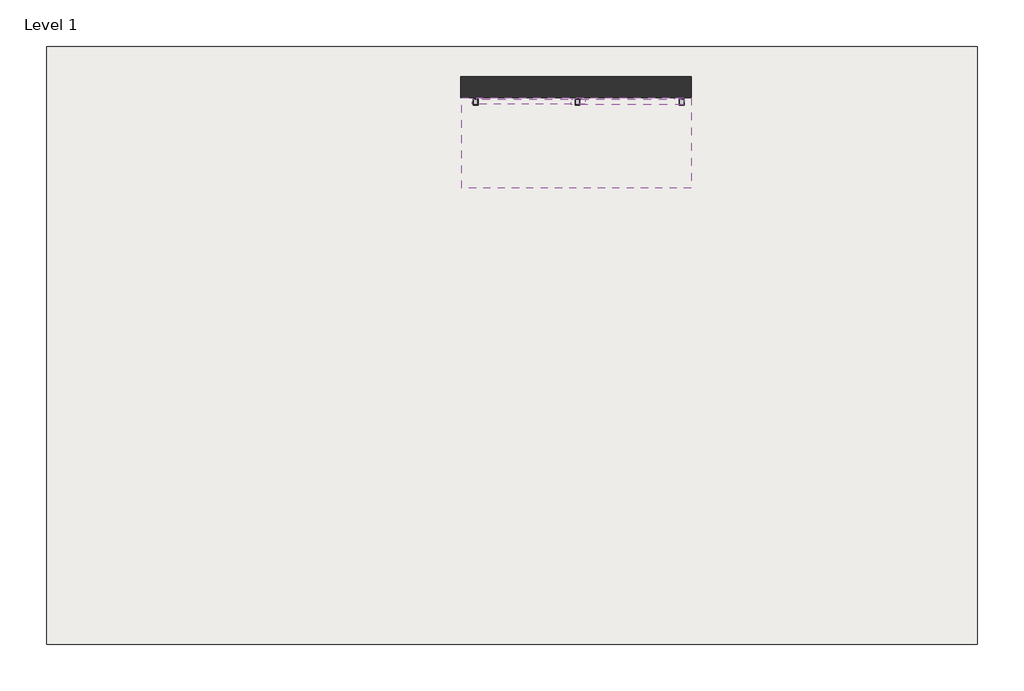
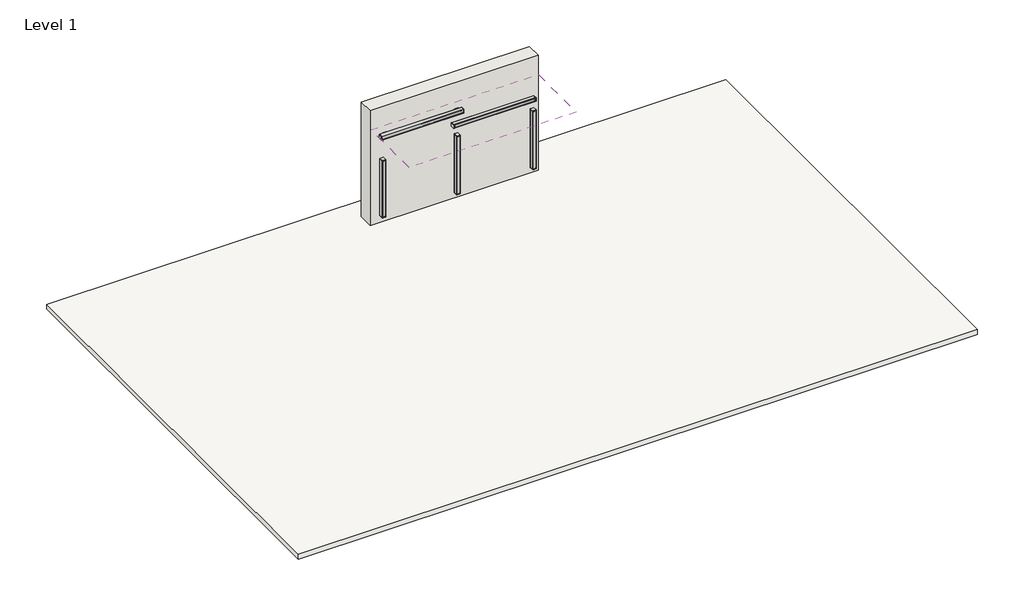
# One storey: 5 light fixtures, 1 covering, 1 slab, 1 wall.
"""IFC4 building model written with IfcOpenShell, lengths in millimetres."""

from ifc_helpers import new_model, si_unit, frame, origin, origin_with_axes, place, context, project, spatial, polyline, outline, extrude, transform, mapped, element, save
from components import lighting_horizontal_mullion_down_axis_extend_4_82a0bb62, lighting_horizontal_mullion_out_axis_extend_4_b6a250f9, lighting_horizontal_mullion_out_axis_extend_4_3f4398bc, lighting_horizontal_mullion_out_axis_extend_4_89aab889

model = new_model("IFC4")

# Units and contexts
model_context = context("Model", 3, world=origin())
ifc_project = project(units=[si_unit("LENGTHUNIT", "METRE", prefix="MILLI")], contexts=[model_context])

# Site, building, storey
site = spatial("IfcSite", under=ifc_project)
building = spatial("IfcBuilding", under=site)
storey = spatial("IfcBuildingStorey", under=building, Name="Level 1", Elevation=0.0)

# Covering
placement = place(None, origin())
element("IfcCovering", 1, ObjectType="Plain", at=placement, inside=storey, context=model_context, shape_type="SweptSolid", body=[
    extrude(outline(polyline([(-3780.5571266, 5992.4697047), (1248.6428734, 5992.4697047), (1248.6428734, 4011.2697047), (-3780.5571266, 4011.2697047), (-3780.5571266, 5992.4697047)])), frame((0.0, 0.0, 3048.0), z_axis=(0.0, 0.0, 1.0), x_axis=(1.0, 0.0, 0.0)), (0.0, 0.0, 1.0), 12.7),
])

# Light fixtures
lighting_horizontal_mullion_down_axis_extend_4_shape = lighting_horizontal_mullion_down_axis_extend_4_82a0bb62(model_context)
element("IfcLightFixture", 2, ObjectType="Lighting -Horizontal Mullion Down-Axis-Extend_4 : EX4WD-900-80-35-SO-4", at=placement, inside=storey, context=model_context, shape_type="MappedRepresentation", body=[
    mapped(lighting_horizontal_mullion_down_axis_extend_4_shape, transform((-2307.3571266, 5992.4697047, 2711.5869413), x_axis=(1.0, 0.0, 0.0), y_axis=(0.0, 0.0, 1.0), z_axis=(0.0, -1.0, 0.0))),
])
lighting_horizontal_mullion_out_axis_extend_4_shape = lighting_horizontal_mullion_out_axis_extend_4_b6a250f9(model_context)
element("IfcLightFixture", 3, ObjectType="Lighting -Horizontal Mullion Out-Axis-Extend_4 : EX4WD-900-80-35-SO-4", at=placement, inside=storey, context=model_context, shape_type="MappedRepresentation", body=[
    mapped(lighting_horizontal_mullion_out_axis_extend_4_shape, transform((-3518.2221166, 5992.4697047, 833.026171), x_axis=(0.0, 0.0, -1.0), y_axis=(1.0, 0.0, 0.0), z_axis=(0.0, -1.0, 0.0))),
])
lighting_horizontal_mullion_out_axis_extend_4_2_shape = lighting_horizontal_mullion_out_axis_extend_4_3f4398bc(model_context)
element("IfcLightFixture", 4, ObjectType="Lighting -Horizontal Mullion Out-Axis-Extend_4 : EX4WD-900-80-35-SO-4", at=placement, inside=storey, context=model_context, shape_type="MappedRepresentation", body=[
    mapped(lighting_horizontal_mullion_out_axis_extend_4_2_shape, transform((1002.9778834, 5992.4697047, 833.026171), x_axis=(0.0, 0.0, -1.0), y_axis=(1.0, 0.0, 0.0), z_axis=(0.0, -1.0, 0.0))),
])
element("IfcLightFixture", 5, ObjectType="Lighting -Horizontal Mullion Out-Axis-Extend_4 : EX4WD-900-80-35-SO-4", at=placement, inside=storey, context=model_context, shape_type="MappedRepresentation", body=[
    mapped(lighting_horizontal_mullion_out_axis_extend_4_2_shape, transform((-1283.0221166, 5992.4697047, 833.026171), x_axis=(0.0, 0.0, -1.0), y_axis=(1.0, 0.0, 0.0), z_axis=(0.0, -1.0, 0.0))),
])
lighting_horizontal_mullion_out_axis_extend_4_3_shape = lighting_horizontal_mullion_out_axis_extend_4_89aab889(model_context)
element("IfcLightFixture", 6, ObjectType="Lighting -Horizontal Mullion Out-Axis-Extend_4 : EX4WD-900-80-35-SO-4", at=placement, inside=storey, context=model_context, shape_type="MappedRepresentation", body=[
    mapped(lighting_horizontal_mullion_out_axis_extend_4_3_shape, transform((-148.3571266, 5992.4697047, 2357.33501), x_axis=(1.0, 0.0, 0.0), y_axis=(0.0, 0.0, 1.0), z_axis=(0.0, -1.0, 0.0))),
])

# Slab
element("IfcSlab", 7, ObjectType="Generic 150mm", at=placement, inside=storey, context=model_context, shape_type="SweptSolid", body=[
    extrude(outline(polyline([(7531.7635568, 7118.573374), (7531.7635568, -6007.2851693), (-12889.8364432, -6007.2851693), (-12889.8364432, 7118.573374), (7531.7635568, 7118.573374)])), frame((0.0, 0.0, -150.0), z_axis=(0.0, 0.0, 1.0), x_axis=(1.0, 0.0, 0.0)), (0.0, 0.0, 1.0), 150.0),
])

# Wall
element("IfcWall", 8, ObjectType="Exterior - Block on Mtl. Stud", at=placement, inside=storey, context=model_context, shape_type="SweptSolid", body=[
    extrude(outline(polyline([(1248.6428734, 5992.4697047), (-3805.9571266, 5992.4697047), (-3805.9571266, 6452.4697047), (1248.6428734, 6452.4697047), (1248.6428734, 5992.4697047)])), origin_with_axes(), (0.0, 0.0, 1.0), 3657.6),
])

save(model, "model.ifc")
